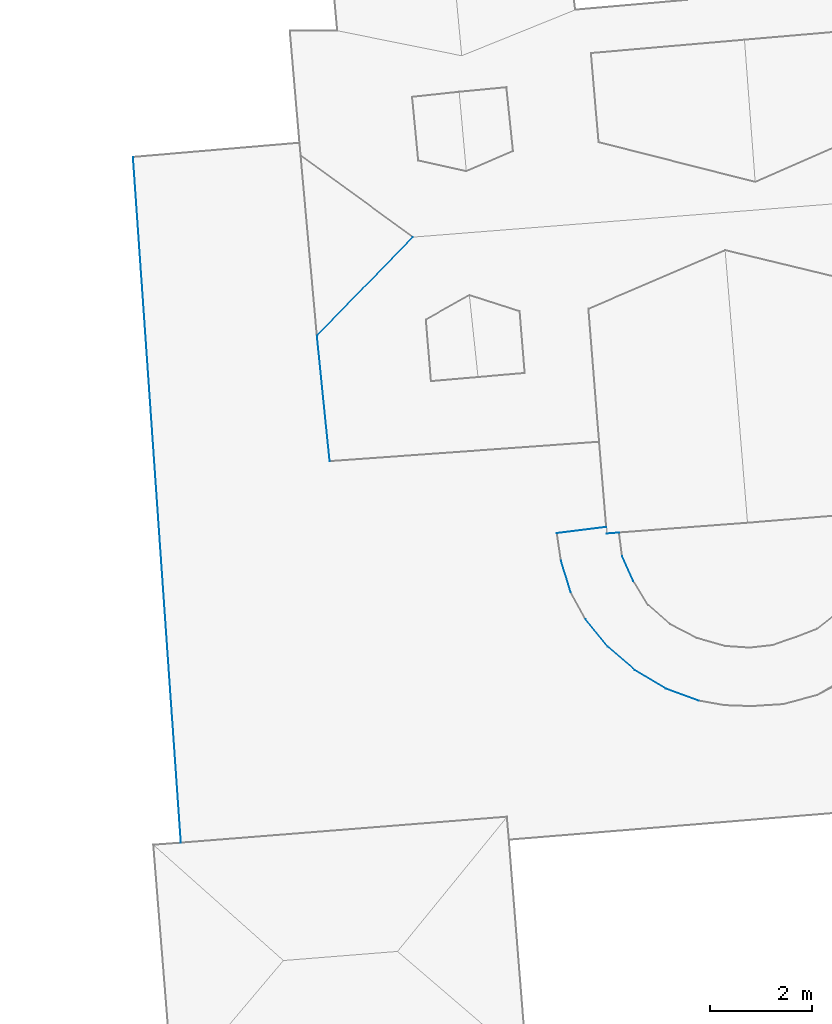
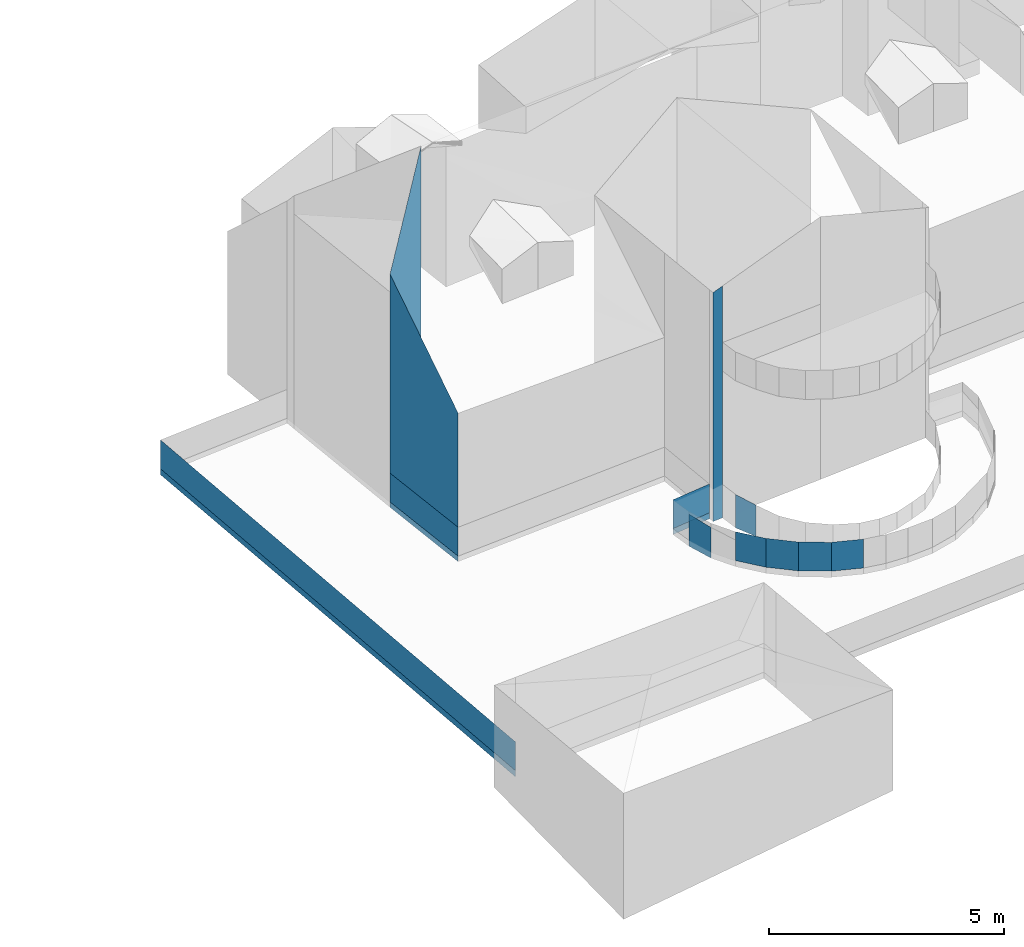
# Not in any storey, part 18 of 59: 21 walls.
"""IFC4 building model written with IfcOpenShell, lengths in metres."""

from ifc_helpers import new_model, entity, si_unit, converted_unit, frame, origin, place, context, subcontext, project, spatial, face_set, surface_model, element, save


model = new_model("IFC4")

# Units and contexts
model_context = context("Model", 3, precision=1e-05, world=origin())
body_context = subcontext(model_context, "Body", "Model", "MODEL_VIEW")
ifc_project = project(units=[converted_unit("PLANEANGLEUNIT", "DEGREE", entity("IfcRatioMeasure", 0.0174532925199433), si_unit("PLANEANGLEUNIT", "RADIAN"), dimensions=[0, 0, 0, 0, 0, 0, 0]), si_unit("AREAUNIT", "SQUARE_METRE"), si_unit("LENGTHUNIT", "METRE")], contexts=[model_context])

# Site, building
site_placement = place(None, origin())
site = spatial("IfcSite", under=ifc_project, at=site_placement, Name="_site")
building_placement = place(site_placement, origin())
building = spatial("IfcBuilding", under=site, at=building_placement, Name="_building")

# Walls
wall_1_placement = place(building_placement, origin())
element("IfcWall", 1, at=wall_1_placement, inside=building, Name="Wall", PredefinedType="NOTDEFINED", context=body_context, shape_type="SurfaceModel", body=[
    surface_model("IfcFaceBasedSurfaceModel", [(229.42, 95.902, 232.08), (231.3, 97.84, 233.57), (231.3, 97.84, 226.163), (229.42, 95.902, 226.163)], [face_set([[[0, 1, 2, 3]]])]),
])
wall_2_placement = place(building_placement, origin())
element("IfcWall", 2, at=wall_2_placement, inside=building, Name="Wall", PredefinedType="NOTDEFINED", context=body_context, shape_type="SurfaceModel", body=[
    surface_model("IfcFaceBasedSurfaceModel", [(229.67, 93.439, 229.876), (229.42, 95.902, 232.08), (229.42, 95.902, 226.024), (229.67, 93.439, 226.019)], [face_set([[[0, 1, 2, 3]]])]),
])
wall_3_placement = place(building_placement, origin())
element("IfcWall", 3, at=wall_3_placement, inside=building, Name="Wall", PredefinedType="NOTDEFINED", context=body_context, shape_type="SurfaceModel", body=[
    surface_model("IfcFaceBasedSurfaceModel", [(235.35, 92.039, 232.037), (235.11, 92.02, 231.96), (235.11, 92.02, 226.017), (235.35, 92.039, 226.017)], [face_set([[[0, 1, 2, 3]]])]),
])
wall_4_placement = place(building_placement, origin())
element("IfcWall", 4, at=wall_4_placement, inside=building, Name="Wall", PredefinedType="NOTDEFINED", context=body_context, shape_type="SurfaceModel", body=[
    surface_model("IfcFaceBasedSurfaceModel", [(234.13, 92.029, 226.17), (235.1, 92.15, 226.17), (235.1, 92.15, 226.92), (234.13, 92.029, 226.92)], [face_set([[[0, 1, 2, 3]]])]),
])
wall_5_placement = place(building_placement, origin())
element("IfcWall", 5, at=wall_5_placement, inside=building, Name="Wall", PredefinedType="NOTDEFINED", context=body_context, shape_type="SurfaceModel", body=[
    surface_model("IfcFaceBasedSurfaceModel", [(235.13, 89.801, 226.17), (234.69, 90.34, 226.17), (234.69, 90.34, 226.92), (235.13, 89.801, 226.92)], [face_set([[[0, 1, 2, 3]]])]),
])
wall_6_placement = place(building_placement, origin())
element("IfcWall", 6, at=wall_6_placement, inside=building, Name="Wall", PredefinedType="NOTDEFINED", context=body_context, shape_type="SurfaceModel", body=[
    surface_model("IfcFaceBasedSurfaceModel", [(235.66, 89.34, 226.17), (235.13, 89.801, 226.17), (235.13, 89.801, 226.92), (235.66, 89.34, 226.92)], [face_set([[[0, 1, 2, 3]]])]),
])
wall_7_placement = place(building_placement, origin())
element("IfcWall", 7, at=wall_7_placement, inside=building, Name="Wall", PredefinedType="NOTDEFINED", context=body_context, shape_type="SurfaceModel", body=[
    surface_model("IfcFaceBasedSurfaceModel", [(236.26, 88.98, 226.17), (235.66, 89.34, 226.17), (235.66, 89.34, 226.92), (236.26, 88.98, 226.92)], [face_set([[[0, 1, 2, 3]]])]),
])
wall_8_placement = place(building_placement, origin())
element("IfcWall", 8, at=wall_8_placement, inside=building, Name="Wall", PredefinedType="NOTDEFINED", context=body_context, shape_type="SurfaceModel", body=[
    surface_model("IfcFaceBasedSurfaceModel", [(236.91, 88.74, 226.17), (236.26, 88.98, 226.17), (236.26, 88.98, 226.92), (236.91, 88.74, 226.92)], [face_set([[[0, 1, 2, 3]]])]),
])
wall_9_placement = place(building_placement, origin())
element("IfcWall", 9, at=wall_9_placement, inside=building, Name="Wall", PredefinedType="NOTDEFINED", context=body_context, shape_type="SurfaceModel", body=[
    surface_model("IfcFaceBasedSurfaceModel", [(234.13, 92.029, 226.17), (235.1, 92.15, 226.17), (235.1, 92.15, 226.92), (234.13, 92.029, 226.92)], [face_set([[[0, 1, 2, 3]]])]),
])
wall_10_placement = place(building_placement, origin())
element("IfcWall", 10, at=wall_10_placement, inside=building, Name="Wall", PredefinedType="NOTDEFINED", context=body_context, shape_type="SurfaceModel", body=[
    surface_model("IfcFaceBasedSurfaceModel", [(235.13, 89.801, 226.17), (234.69, 90.34, 226.17), (234.69, 90.34, 226.92), (235.13, 89.801, 226.92)], [face_set([[[0, 1, 2, 3]]])]),
])
wall_11_placement = place(building_placement, origin())
element("IfcWall", 11, at=wall_11_placement, inside=building, Name="Wall", PredefinedType="NOTDEFINED", context=body_context, shape_type="SurfaceModel", body=[
    surface_model("IfcFaceBasedSurfaceModel", [(235.66, 89.34, 226.17), (235.13, 89.801, 226.17), (235.13, 89.801, 226.92), (235.66, 89.34, 226.92)], [face_set([[[0, 1, 2, 3]]])]),
])
wall_12_placement = place(building_placement, origin())
element("IfcWall", 12, at=wall_12_placement, inside=building, Name="Wall", PredefinedType="NOTDEFINED", context=body_context, shape_type="SurfaceModel", body=[
    surface_model("IfcFaceBasedSurfaceModel", [(236.26, 88.98, 226.17), (235.66, 89.34, 226.17), (235.66, 89.34, 226.92), (236.26, 88.98, 226.92)], [face_set([[[0, 1, 2, 3]]])]),
])
wall_13_placement = place(building_placement, origin())
element("IfcWall", 13, at=wall_13_placement, inside=building, Name="Wall", PredefinedType="NOTDEFINED", context=body_context, shape_type="SurfaceModel", body=[
    surface_model("IfcFaceBasedSurfaceModel", [(236.91, 88.74, 226.17), (236.26, 88.98, 226.17), (236.26, 88.98, 226.92), (236.91, 88.74, 226.92)], [face_set([[[0, 1, 2, 3]]])]),
])
for number, where, name in (
    (14, (0.0, 0.0, 0.0), "Wall"),
    (15, (0.0, 0.0, 0.0), "Wall"),
):
    element("IfcWall", number, at=place(building_placement, frame(where)), inside=building, Name=name, PredefinedType="NOTDEFINED", context=body_context, shape_type="SurfaceModel", body=[
        surface_model("IfcFaceBasedSurfaceModel", [(229.67, 93.439, 226.163), (229.42, 95.902, 226.163), (229.42, 95.902, 226.913), (229.67, 93.439, 226.913)], [face_set([[[0, 1, 2, 3]]])]),
    ])
for number, where, name in (
    (16, (0.0, 0.0, 0.0), "Wall"),
    (17, (0.0, 0.0, 0.0), "Wall"),
):
    element("IfcWall", number, at=place(building_placement, frame(where)), inside=building, Name=name, PredefinedType="NOTDEFINED", context=body_context, shape_type="SurfaceModel", body=[
        surface_model("IfcFaceBasedSurfaceModel", [(226.75, 85.951, 226.16), (225.81, 99.41, 226.16), (225.81, 99.41, 226.91), (226.75, 85.951, 226.91)], [face_set([[[0, 1, 2, 3]]])]),
    ])
wall_14_placement = place(building_placement, origin())
element("IfcWall", 18, at=wall_14_placement, inside=building, Name="Wall", PredefinedType="NOTDEFINED", context=body_context, shape_type="SurfaceModel", body=[
    surface_model("IfcFaceBasedSurfaceModel", [(235.41, 91.58, 226.885), (235.63, 91.09, 226.825), (235.63, 91.09, 226.015), (235.41, 91.58, 226.016)], [face_set([[[0, 1, 2, 3]]])]),
])
wall_15_placement = place(building_placement, origin())
element("IfcWall", 19, at=wall_15_placement, inside=building, Name="Wall", PredefinedType="NOTDEFINED", context=body_context, shape_type="SurfaceModel", body=[
    surface_model("IfcFaceBasedSurfaceModel", [(234.13, 92.029, 226.852), (235.1, 92.15, 226.86), (235.1, 92.15, 226.017), (234.13, 92.029, 226.017)], [face_set([[[0, 1, 2, 3]]])]),
])
wall_16_placement = place(building_placement, origin())
element("IfcWall", 20, at=wall_16_placement, inside=building, Name="Wall", PredefinedType="NOTDEFINED", context=body_context, shape_type="SurfaceModel", body=[
    surface_model("IfcFaceBasedSurfaceModel", [(234.4, 90.869, 226.81), (234.21, 91.49, 226.847), (234.21, 91.49, 226.016), (234.4, 90.869, 226.014)], [face_set([[[0, 1, 2, 3]]])]),
])
wall_17_placement = place(building_placement, origin())
element("IfcWall", 21, at=wall_17_placement, inside=building, Name="Wall", PredefinedType="NOTDEFINED", context=body_context, shape_type="SurfaceModel", body=[
    surface_model("IfcFaceBasedSurfaceModel", [(226.75, 85.951, 226.16), (225.81, 99.41, 226.16), (225.81, 99.41, 226.008), (226.75, 85.951, 226.0)], [face_set([[[0, 1, 2, 3]]])]),
])

save(model, "model.ifc")
